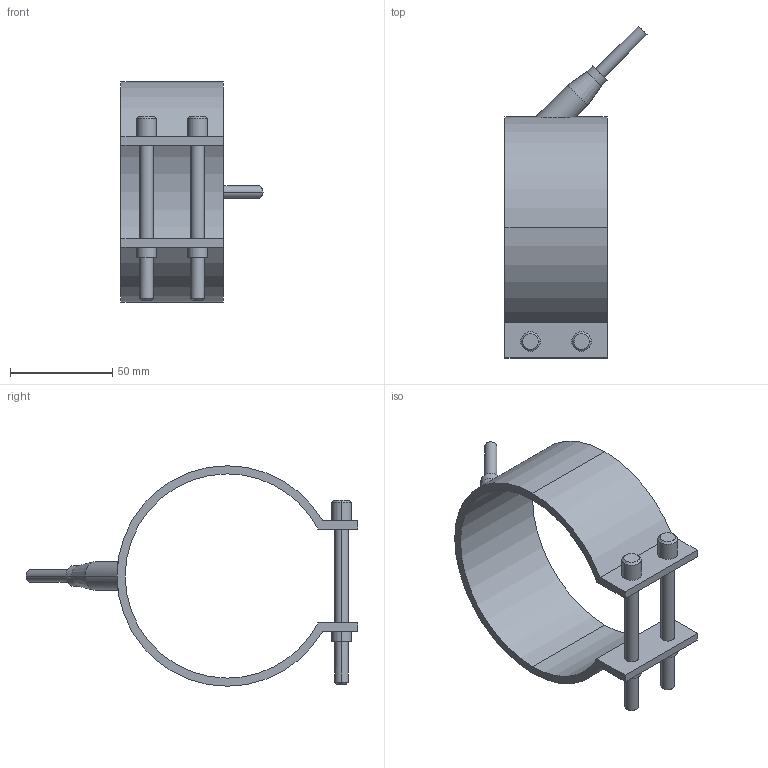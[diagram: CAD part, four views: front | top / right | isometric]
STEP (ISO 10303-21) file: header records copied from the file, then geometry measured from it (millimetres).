
FILE_DESCRIPTION(('CATIA V5 STEP Exchange'),'2;1');
FILE_NAME('C:\Users\Utente\Desktop\IO LAVORO\3D X SITO CF\X SITO\PLASTICA\RF1\29100050.stp','2021-03-29T13:18:35+00:00',('none'),('none'),'CATIA Version 5 Release 20 GA (IN-10)','CATIA V5 STEP AP203','none');
FILE_SCHEMA(('CONFIG_CONTROL_DESIGN'));
Length unit declared in the file: millimetre
Products named in the file (1): 29100050
Bounding box: 69.55 x 162.55 x 108 mm (x, y, z)
Volume: 73827.4 mm3; surface area: 39183.1 mm2
Topology: 1 solids, 1 shells, 54 faces, 121 edges, 77 vertices
Faces by surface type: cylinder 28, plane 16, cone 10
Entity records: 1686 total; most frequent: CARTESIAN_POINT 458, ORIENTED_EDGE 242, DIRECTION 216, EDGE_CURVE 121, AXIS2_PLACEMENT_3D 109, VERTEX_POINT 77, EDGE_LOOP 66, VECTOR 56
